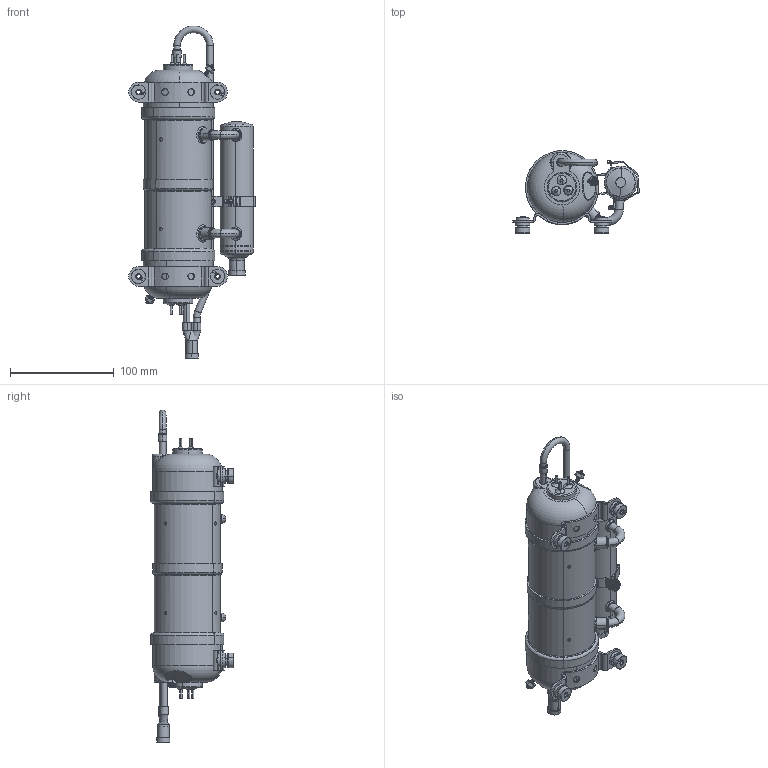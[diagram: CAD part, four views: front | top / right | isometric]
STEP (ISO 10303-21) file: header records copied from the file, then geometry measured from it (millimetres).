
FILE_DESCRIPTION (( 'STEP AP203' ), '1' );
FILE_NAME ('H56-XX-XXXX Compressor, Horizontal, 5.6cc.STEP', '2023-12-05T04:01:44', ( '' ), ( '' ), 'SwSTEP 2.0', 'SolidWorks 2021', '' );
FILE_SCHEMA (( 'CONFIG_CONTROL_DESIGN' ));
Products named in the file (1): H56-XX-XXXX Compressor, Horizontal, 5.6cc
Bounding box: 122.06 x 79.53 x 320.34 mm (x, y, z)
Volume: 143260 mm3; surface area: 200852.2 mm2
Topology: 46 solids, 48 shells, 1725 faces, 4024 edges, 2436 vertices
Faces by surface type: cylinder 774, plane 329, torus 290, cone 186, bspline 146
Entity records: 69547 total; most frequent: CARTESIAN_POINT 31837, ORIENTED_EDGE 8008, DIRECTION 7867, EDGE_CURVE 4004, AXIS2_PLACEMENT_3D 3272, VERTEX_POINT 2436, EDGE_LOOP 1916, FACE_OUTER_BOUND 1725
